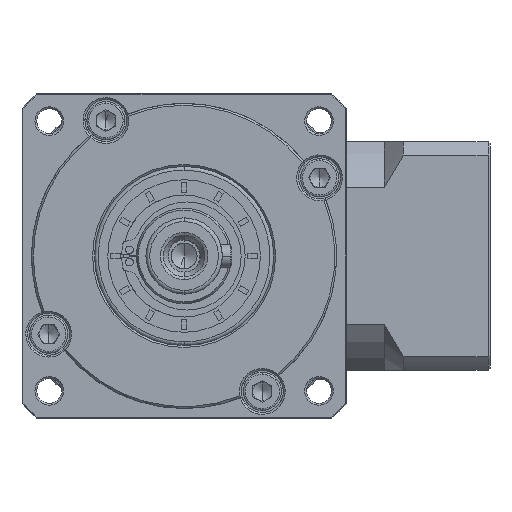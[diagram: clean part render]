
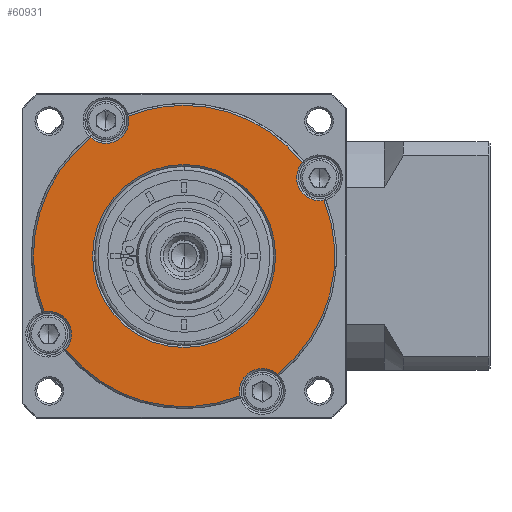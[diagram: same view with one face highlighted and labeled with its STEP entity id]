
A CAD part, left-side view. The second image highlights one B-rep face of the part: STEP entity #60931.
In plain terms, the highlighted planar face has unit normal (-1, 0, 0).
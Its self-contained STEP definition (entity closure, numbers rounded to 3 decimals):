
#475 = CARTESIAN_POINT ( 'NONE',  ( -102.608, -21.383, -119.695 ) ) ;
#2370 = CARTESIAN_POINT ( 'NONE',  ( -102.608, -52.391, -95.225 ) ) ;
#2680 = CARTESIAN_POINT ( 'NONE',  ( -102.608, -41.883, -155.202 ) ) ;
#4012 = CARTESIAN_POINT ( 'NONE',  ( -102.608, -56.89, -99.195 ) ) ;
#5093 = CIRCLE ( 'NONE', #38470, 39.5 ) ;
#5763 = CARTESIAN_POINT ( 'NONE',  ( -102.608, -21.383, -119.695 ) ) ;
#8116 = EDGE_CURVE ( 'NONE', #31486, #32011, #46668, .T. ) ;
#9572 = VERTEX_POINT ( 'NONE', #67900 ) ;
#9755 = ORIENTED_EDGE ( 'NONE', *, *, #36953, .T. ) ;
#10786 = DIRECTION ( 'NONE',  ( -1., 0., 0. ) ) ;
#10924 = DIRECTION ( 'NONE',  ( 1., 0., 0. ) ) ;
#13979 = DIRECTION ( 'NONE',  ( 0., -1., 0. ) ) ;
#16180 = DIRECTION ( 'NONE',  ( 0., 0., -1. ) ) ;
#17491 = DIRECTION ( 'NONE',  ( 0., 0., -1. ) ) ;
#17835 = ORIENTED_EDGE ( 'NONE', *, *, #84733, .T. ) ;
#19221 = DIRECTION ( 'NONE',  ( 0., 1., 0. ) ) ;
#23194 = DIRECTION ( 'NONE',  ( 1., 0., 0. ) ) ;
#24349 = CIRCLE ( 'NONE', #31508, 6. ) ;
#25349 = VERTEX_POINT ( 'NONE', #134263 ) ;
#25662 = CARTESIAN_POINT ( 'NONE',  ( -102.608, -0.883, -90.188 ) ) ;
#26372 = EDGE_CURVE ( 'NONE', #123271, #9572, #165969, .T. ) ;
#27744 = VERTEX_POINT ( 'NONE', #104916 ) ;
#28453 = CARTESIAN_POINT ( 'NONE',  ( -102.608, -21.383, -80.195 ) ) ;
#29485 = DIRECTION ( 'NONE',  ( 1., 0., 0. ) ) ;
#29593 = DIRECTION ( 'NONE',  ( 1., 0., 0. ) ) ;
#31074 = ORIENTED_EDGE ( 'NONE', *, *, #113880, .T. ) ;
#31486 = VERTEX_POINT ( 'NONE', #28453 ) ;
#31508 = AXIS2_PLACEMENT_3D ( 'NONE', #154028, #74004, #167541 ) ;
#32011 = VERTEX_POINT ( 'NONE', #2370 ) ;
#33906 = VERTEX_POINT ( 'NONE', #76528 ) ;
#34205 = CARTESIAN_POINT ( 'NONE',  ( -102.608, -21.383, -119.695 ) ) ;
#34401 = ORIENTED_EDGE ( 'NONE', *, *, #141724, .T. ) ;
#36852 = CARTESIAN_POINT ( 'NONE',  ( -102.608, -21.383, -119.695 ) ) ;
#36953 = EDGE_CURVE ( 'NONE', #33906, #32011, #48057, .T. ) ;
#37111 = CARTESIAN_POINT ( 'NONE',  ( -102.608, 18.117, -119.695 ) ) ;
#38391 = AXIS2_PLACEMENT_3D ( 'NONE', #475, #94099, #13979 ) ;
#38470 = AXIS2_PLACEMENT_3D ( 'NONE', #34205, #127725, #47676 ) ;
#40995 = AXIS2_PLACEMENT_3D ( 'NONE', #109638, #29593, #123064 ) ;
#42072 = AXIS2_PLACEMENT_3D ( 'NONE', #91071, #10924, #104478 ) ;
#42267 = VERTEX_POINT ( 'NONE', #54023 ) ;
#42765 = ORIENTED_EDGE ( 'NONE', *, *, #160890, .F. ) ;
#43111 = ORIENTED_EDGE ( 'NONE', *, *, #161719, .F. ) ;
#44204 = VERTEX_POINT ( 'NONE', #79029 ) ;
#46437 = EDGE_CURVE ( 'NONE', #113970, #42267, #166880, .T. ) ;
#46668 = CIRCLE ( 'NONE', #95310, 39.5 ) ;
#46827 = ORIENTED_EDGE ( 'NONE', *, *, #126819, .F. ) ;
#47676 = DIRECTION ( 'NONE',  ( 0., 0., 1. ) ) ;
#48057 = CIRCLE ( 'NONE', #91440, 6. ) ;
#50247 = DIRECTION ( 'NONE',  ( 0., 0., 1. ) ) ;
#51146 = ORIENTED_EDGE ( 'NONE', *, *, #68213, .T. ) ;
#54023 = CARTESIAN_POINT ( 'NONE',  ( -102.608, 3.087, -88.687 ) ) ;
#55122 = CARTESIAN_POINT ( 'NONE',  ( -102.608, -21.383, -119.695 ) ) ;
#59681 = CIRCLE ( 'NONE', #40995, 39.5 ) ;
#60931 = ADVANCED_FACE ( 'NONE', ( #62760, #165209 ), #63551, .T. ) ;
#62760 = FACE_OUTER_BOUND ( 'NONE', #162584, .T. ) ;
#62974 = DIRECTION ( 'NONE',  ( 1., 0., 0. ) ) ;
#63551 = PLANE ( 'NONE',  #74313 ) ;
#67900 = CARTESIAN_POINT ( 'NONE',  ( -102.608, -45.383, -119.695 ) ) ;
#67964 = VERTEX_POINT ( 'NONE', #126802 ) ;
#68213 = EDGE_CURVE ( 'NONE', #76065, #91030, #151498, .T. ) ;
#68544 = DIRECTION ( 'NONE',  ( 0., 1., 0. ) ) ;
#73191 = AXIS2_PLACEMENT_3D ( 'NONE', #5763, #99346, #19221 ) ;
#73702 = CIRCLE ( 'NONE', #90383, 39.5 ) ;
#74004 = DIRECTION ( 'NONE',  ( 1., 0., 0. ) ) ;
#74313 = AXIS2_PLACEMENT_3D ( 'NONE', #90926, #10786, #104339 ) ;
#76020 = EDGE_CURVE ( 'NONE', #27744, #113970, #150902, .T. ) ;
#76065 = VERTEX_POINT ( 'NONE', #113360 ) ;
#76457 = CIRCLE ( 'NONE', #132679, 6. ) ;
#76528 = CARTESIAN_POINT ( 'NONE',  ( -102.608, -56.89, -105.195 ) ) ;
#76852 = AXIS2_PLACEMENT_3D ( 'NONE', #142963, #62974, #156335 ) ;
#77455 = CARTESIAN_POINT ( 'NONE',  ( -102.608, -21.383, -119.695 ) ) ;
#79029 = CARTESIAN_POINT ( 'NONE',  ( -102.608, -58.078, -105.076 ) ) ;
#79397 = CIRCLE ( 'NONE', #141585, 6. ) ;
#84458 = CIRCLE ( 'NONE', #76852, 6. ) ;
#84733 = EDGE_CURVE ( 'NONE', #9572, #123271, #129438, .T. ) ;
#90383 = AXIS2_PLACEMENT_3D ( 'NONE', #36852, #130366, #50247 ) ;
#90819 = DIRECTION ( 'NONE',  ( 0., -1., 0. ) ) ;
#90926 = CARTESIAN_POINT ( 'NONE',  ( -102.608, -21.383, -119.695 ) ) ;
#91030 = VERTEX_POINT ( 'NONE', #25662 ) ;
#91069 = ORIENTED_EDGE ( 'NONE', *, *, #26372, .T. ) ;
#91071 = CARTESIAN_POINT ( 'NONE',  ( -102.608, -0.883, -84.188 ) ) ;
#91440 = AXIS2_PLACEMENT_3D ( 'NONE', #103240, #23194, #116693 ) ;
#94099 = DIRECTION ( 'NONE',  ( 1., 0., 0. ) ) ;
#95310 = AXIS2_PLACEMENT_3D ( 'NONE', #109530, #29485, #122962 ) ;
#96269 = DIRECTION ( 'NONE',  ( 1., 0., 0. ) ) ;
#97585 = DIRECTION ( 'NONE',  ( 1., 0., 0. ) ) ;
#99346 = DIRECTION ( 'NONE',  ( 1., 0., 0. ) ) ;
#99787 = EDGE_CURVE ( 'NONE', #27744, #67964, #84458, .T. ) ;
#103240 = CARTESIAN_POINT ( 'NONE',  ( -102.608, -56.89, -99.195 ) ) ;
#104339 = DIRECTION ( 'NONE',  ( 0., 0., -1. ) ) ;
#104478 = DIRECTION ( 'NONE',  ( 0., 0., -1. ) ) ;
#104875 = CARTESIAN_POINT ( 'NONE',  ( -102.608, -36.002, -156.39 ) ) ;
#104916 = CARTESIAN_POINT ( 'NONE',  ( -102.608, 15.312, -134.314 ) ) ;
#109530 = CARTESIAN_POINT ( 'NONE',  ( -102.608, -21.383, -119.695 ) ) ;
#109638 = CARTESIAN_POINT ( 'NONE',  ( -102.608, -21.383, -119.695 ) ) ;
#112363 = ORIENTED_EDGE ( 'NONE', *, *, #121677, .T. ) ;
#113360 = CARTESIAN_POINT ( 'NONE',  ( -102.608, -6.764, -83. ) ) ;
#113880 = EDGE_CURVE ( 'NONE', #91030, #42267, #24349, .T. ) ;
#113970 = VERTEX_POINT ( 'NONE', #37111 ) ;
#116693 = DIRECTION ( 'NONE',  ( 0., 0., -1. ) ) ;
#117133 = AXIS2_PLACEMENT_3D ( 'NONE', #77455, #170940, #90819 ) ;
#121677 = EDGE_CURVE ( 'NONE', #130220, #25349, #76457, .T. ) ;
#122962 = DIRECTION ( 'NONE',  ( 0., 0., 1. ) ) ;
#123064 = DIRECTION ( 'NONE',  ( 0., 0., 1. ) ) ;
#123271 = VERTEX_POINT ( 'NONE', #145151 ) ;
#126240 = ORIENTED_EDGE ( 'NONE', *, *, #99787, .T. ) ;
#126802 = CARTESIAN_POINT ( 'NONE',  ( -102.608, 9.625, -144.165 ) ) ;
#126819 = EDGE_CURVE ( 'NONE', #76065, #31486, #5093, .T. ) ;
#127725 = DIRECTION ( 'NONE',  ( 1., 0., 0. ) ) ;
#129438 = CIRCLE ( 'NONE', #117133, 24. ) ;
#130220 = VERTEX_POINT ( 'NONE', #104875 ) ;
#130366 = DIRECTION ( 'NONE',  ( 1., 0., 0. ) ) ;
#132679 = AXIS2_PLACEMENT_3D ( 'NONE', #2680, #96269, #16180 ) ;
#134263 = CARTESIAN_POINT ( 'NONE',  ( -102.608, -45.853, -150.703 ) ) ;
#141585 = AXIS2_PLACEMENT_3D ( 'NONE', #4012, #97585, #17491 ) ;
#141724 = EDGE_CURVE ( 'NONE', #44204, #33906, #79397, .T. ) ;
#142416 = AXIS2_PLACEMENT_3D ( 'NONE', #55122, #148635, #68544 ) ;
#142963 = CARTESIAN_POINT ( 'NONE',  ( -102.608, 14.124, -140.195 ) ) ;
#145151 = CARTESIAN_POINT ( 'NONE',  ( -102.608, 2.617, -119.695 ) ) ;
#147643 = ORIENTED_EDGE ( 'NONE', *, *, #76020, .F. ) ;
#148635 = DIRECTION ( 'NONE',  ( 1., 0., 0. ) ) ;
#148757 = ORIENTED_EDGE ( 'NONE', *, *, #46437, .F. ) ;
#150902 = CIRCLE ( 'NONE', #73191, 39.5 ) ;
#151498 = CIRCLE ( 'NONE', #42072, 6. ) ;
#154028 = CARTESIAN_POINT ( 'NONE',  ( -102.608, -0.883, -84.188 ) ) ;
#156333 = EDGE_LOOP ( 'NONE', ( #17835, #91069 ) ) ;
#156335 = DIRECTION ( 'NONE',  ( 0., 0., -1. ) ) ;
#160890 = EDGE_CURVE ( 'NONE', #130220, #67964, #59681, .T. ) ;
#161719 = EDGE_CURVE ( 'NONE', #44204, #25349, #73702, .T. ) ;
#162584 = EDGE_LOOP ( 'NONE', ( #46827, #51146, #31074, #148757, #147643, #126240, #42765, #112363, #43111, #34401, #9755, #167874 ) ) ;
#165209 = FACE_BOUND ( 'NONE', #156333, .T. ) ;
#165969 = CIRCLE ( 'NONE', #38391, 24. ) ;
#166880 = CIRCLE ( 'NONE', #142416, 39.5 ) ;
#167541 = DIRECTION ( 'NONE',  ( 0., 0., -1. ) ) ;
#167874 = ORIENTED_EDGE ( 'NONE', *, *, #8116, .F. ) ;
#170940 = DIRECTION ( 'NONE',  ( 1., 0., 0. ) ) ;
